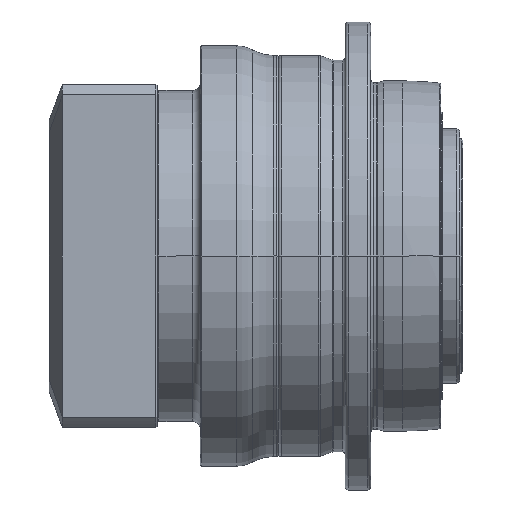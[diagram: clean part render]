
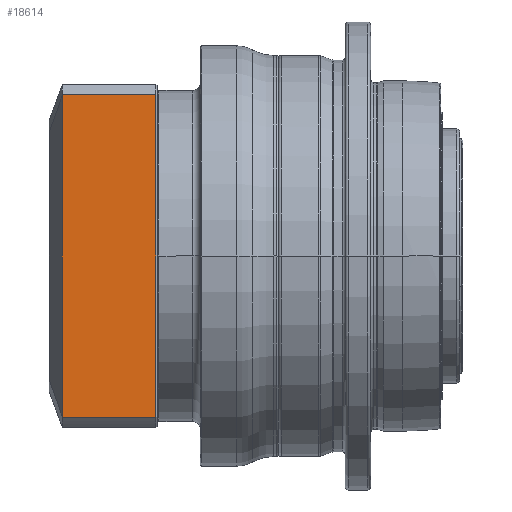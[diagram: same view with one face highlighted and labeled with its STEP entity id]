
A CAD part, front view. The second image highlights one B-rep face of the part: STEP entity #18614.
In plain terms, the highlighted planar face has unit normal (0, -1, 0) as drawn and (0, 1, 0) by its records, which use the part's own axes.
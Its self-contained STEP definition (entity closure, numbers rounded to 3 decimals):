
#17362=CARTESIAN_POINT('',(-50.596,54.,31.8));
#17364=DIRECTION('',(1.,0.,0.));
#17365=VECTOR('',#17364,101.193);
#17366=CARTESIAN_POINT('',(-50.596,54.,
2.5));
#17367=LINE('',#17366,#17365);
#17368=DIRECTION('',(0.,0.,1.));
#17369=VECTOR('',#17368,29.3);
#17370=CARTESIAN_POINT('',(50.596,54.,2.5));
#17371=LINE('',#17370,#17369);
#17372=DIRECTION('',(-1.,0.,0.));
#17373=VECTOR('',#17372,101.193);
#17374=CARTESIAN_POINT('',(50.596,54.,31.8));
#17375=LINE('',#17374,#17373);
#17376=DIRECTION('',(0.,0.,-1.));
#17377=VECTOR('',#17376,29.3);
#17378=CARTESIAN_POINT('',(-50.596,54.,31.8));
#17379=LINE('',#17378,#17377);
#18083=CARTESIAN_POINT('',(50.596,54.,31.8));
#18085=VERTEX_POINT('',#18083);
#18087=VERTEX_POINT('',#17362);
#18178=CARTESIAN_POINT('',(-50.596,54.,
2.5));
#18179=CARTESIAN_POINT('',(50.596,54.,2.5));
#18180=VERTEX_POINT('',#18178);
#18181=VERTEX_POINT('',#18179);
#18600=CARTESIAN_POINT('',(54.,54.,0.));
#18601=DIRECTION('',(0.,1.,0.));
#18602=DIRECTION('',(-1.,0.,0.));
#18603=AXIS2_PLACEMENT_3D('',#18600,#18601,#18602);
#18604=PLANE('',#18603);
#18606=ORIENTED_EDGE('',*,*,#18605,.T.);
#18608=ORIENTED_EDGE('',*,*,#18607,.T.);
#18609=ORIENTED_EDGE('',*,*,#18595,.T.);
#18611=ORIENTED_EDGE('',*,*,#18610,.T.);
#18612=EDGE_LOOP('',(#18606,#18608,#18609,#18611));
#18613=FACE_OUTER_BOUND('',#18612,.F.);
#18614=ADVANCED_FACE('',(#18613),#18604,.T.);
#18595=EDGE_CURVE('',#18085,#18087,#17375,.T.);
#18605=EDGE_CURVE('',#18180,#18181,#17367,.T.);
#18607=EDGE_CURVE('',#18181,#18085,#17371,.T.);
#18610=EDGE_CURVE('',#18087,#18180,#17379,.T.);
